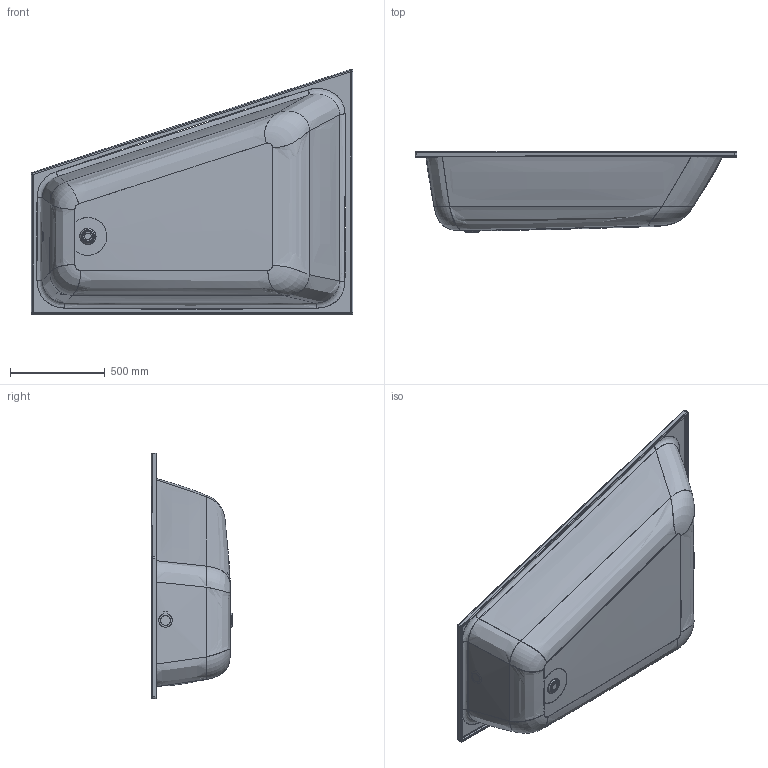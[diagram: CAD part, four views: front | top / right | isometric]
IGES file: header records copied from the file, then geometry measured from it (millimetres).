
Start section: Write IGES format                                    datakit 2008 (c)
Global section: file name: Unknown; native system: DATAKIT Converter; preprocessor: Unknown; author: Unknown; organization: Unknown; date: 950613.180003; units: millimetre
Bounding box: 1699 x 430 x 1295.06 mm (x, y, z)
Surface area: 6326596.6 mm2 (no closed solid volume)
Topology: 0 solids, 0 shells, 149 faces, 1114 edges, 1107 vertices
Faces by surface type: revolution 70, bspline 59, offset 20
